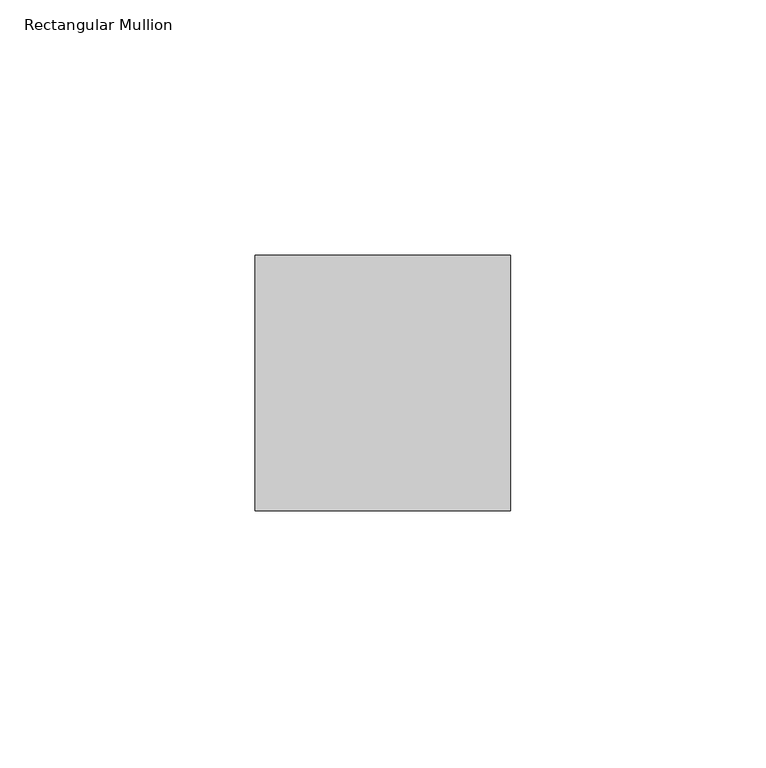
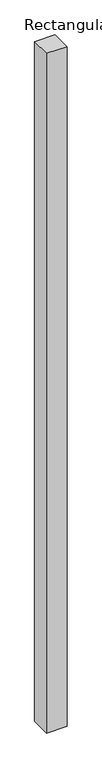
"""IFC4 building model written with IfcOpenShell, lengths in millimetres: member geometry, Rectangular Mullion : Mullion_Curtain Wall_Generic Showcase_50x50mm."""

from ifc_helpers import new_model, si_unit, frame, origin, place, context, project, spatial, polyline, outline, extrude, source, transform, mapped, element, save


def rectangular_mullion_2e5d74a0(model_context):
    return source(origin(), model_context, "Body", "SweptSolid", [
        extrude(outline(polyline([(25.0, 0.0), (25.0, -50.0), (-25.0, -50.0), (-25.0, 0.0), (25.0, 0.0)])), frame((0.0, 0.0, -1751.9795478), z_axis=(0.0, 0.0, 1.0), x_axis=(1.0, 0.0, 0.0)), (0.0, 0.0, 1.0), 1751.9795478),
    ])


if __name__ == "__main__":
    model = new_model("IFC4")
    model_context = context("Model", 3, world=origin())
    ifc_project = project(units=[si_unit("LENGTHUNIT", "METRE", prefix="MILLI")], contexts=[model_context])
    site = spatial("IfcSite", under=ifc_project)
    building = spatial("IfcBuilding", under=site)
    placement = place(None, origin())
    rectangular_mullion_shape = rectangular_mullion_2e5d74a0(model_context)
    element("IfcMember", 1, ObjectType="Rectangular Mullion : Mullion_Curtain Wall_Generic Showcase_50x50mm", at=placement, inside=building, context=model_context, shape_type="MappedRepresentation", body=[
        mapped(rectangular_mullion_shape, transform((0.0, 0.0, 0.0), x_axis=(1.0, 0.0, 0.0), y_axis=(0.0, 1.0, 0.0), z_axis=(0.0, 0.0, 1.0))),
    ])
    save(model, "model.ifc")
